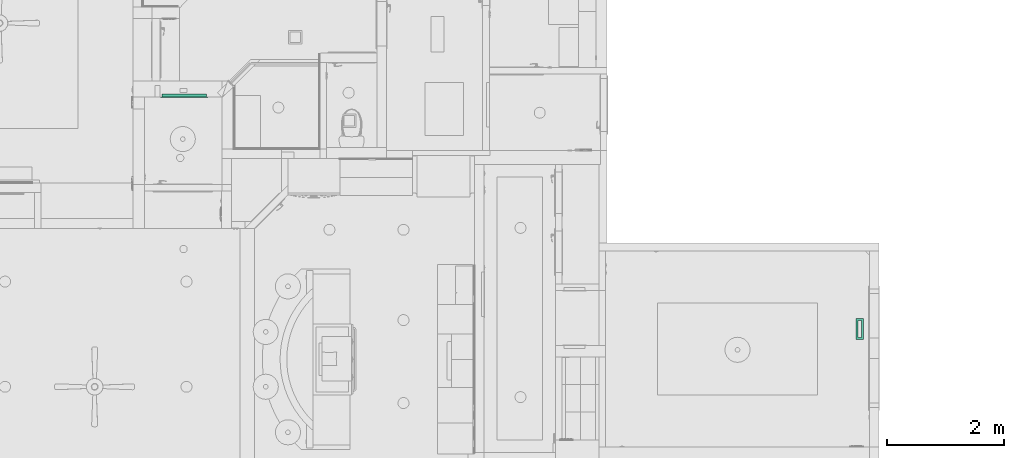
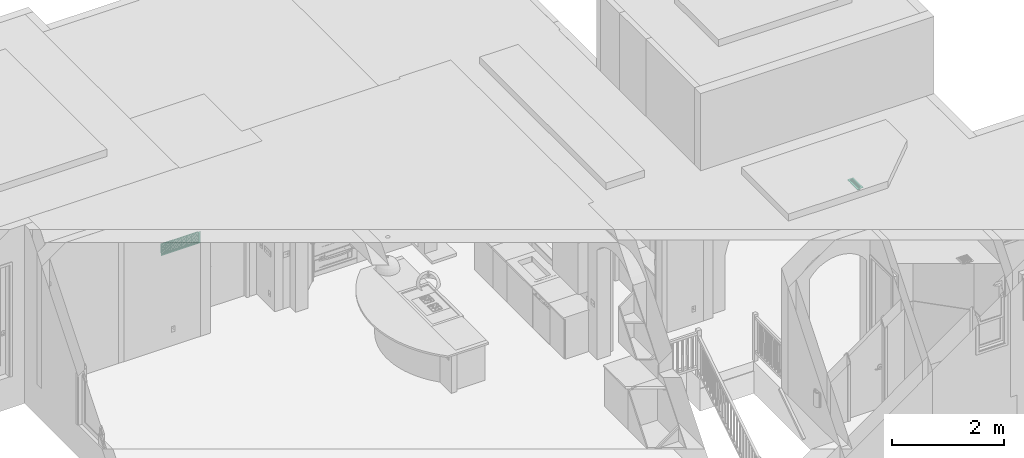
# One storey, part 44 of 103: 2 distribution flow elements.
"""IFC2X3 building model written with IfcOpenShell, lengths in inches."""

import ifcopenshell
import ifcopenshell.guid

model = None  # the IFC model being written
_history = None  # IfcOwnerHistory: only IFC2X3 demands one
_inside = {}  # id of a spatial element -> (the spatial element, [elements in it])
_under = {}  # id of a project, library or spatial element -> (it, [spatial elements below it])
_declared = {}  # id of a project -> (the project, [libraries it declares])
_typed = {}  # id of a type object -> (the type object, [elements of that type])
_made_of = {}  # id of a material, layer set ... -> (it, [elements and type objects made of it])


def new_model(schema):
    """Start an empty IFC model of exactly this schema.

    Asked for "IFC4X3", IfcOpenShell would pick the latest addendum, in which some entities
    have other attributes; the version numbers below select the first issue.
    IFC2X3 requires an IfcOwnerHistory on every rooted entity: one is made here for all.
    """
    global model, _history
    if schema == "IFC4X3":
        model = ifcopenshell.file(schema_version=(4, 3, 0, 0))
    else:
        model = ifcopenshell.file(schema=schema)
    _inside.clear()
    _under.clear()
    _declared.clear()
    _typed.clear()
    _made_of.clear()
    _history = None
    if model.schema == "IFC2X3":
        org = make("IfcOrganization", Name="unknown")
        user = make(
            "IfcPersonAndOrganization",
            ThePerson=make("IfcPerson", FamilyName="unknown"),
            TheOrganization=org,
        )
        app = make(
            "IfcApplication",
            ApplicationDeveloper=org,
            Version="unknown",
            ApplicationFullName="unknown",
            ApplicationIdentifier="unknown",
        )
        _history = make(
            "IfcOwnerHistory",
            OwningUser=user,
            OwningApplication=app,
            ChangeAction="ADDED",
            CreationDate=0,
        )
    return model


def make(cls, **values):
    """One entity of the class cls with the attributes given. An attribute that is None is left unset."""
    return model.create_entity(
        cls, **{name: value for name, value in values.items() if value is not None}
    )


def entity(cls, *values):
    """Any entity or typed value of the class cls, its attributes in the order of the schema. None: left unset."""
    e = model.create_entity(cls)
    for i, value in enumerate(values):
        if value is not None:
            e[i] = value
    return e


def rooted(cls, **values):
    """An entity with a GlobalId (a new one), such as an element, a storey or a relation."""
    return make(cls, GlobalId=ifcopenshell.guid.new(), OwnerHistory=_history, **values)


def si_unit(unit_type, name, prefix=None):
    """IfcSIUnit, for example si_unit("LENGTHUNIT", "METRE", prefix="MILLI")."""
    return make("IfcSIUnit", UnitType=unit_type, Prefix=prefix, Name=name)


def converted_unit(unit_type, name, factor, base, dimensions=None, offset=None):
    """IfcConversionBasedUnit, such as the inch: factor (a typed value) times the base unit."""
    return make(
        "IfcConversionBasedUnit"
        if offset is None
        else "IfcConversionBasedUnitWithOffset",
        ConversionOffset=offset,
        Dimensions=None
        if dimensions is None
        else entity("IfcDimensionalExponents", *dimensions),
        UnitType=unit_type,
        Name=name,
        ConversionFactor=make(
            "IfcMeasureWithUnit", ValueComponent=factor, UnitComponent=base
        ),
    )


def derived_unit(unit_type, elements):
    """IfcDerivedUnit: a product of units, each with its exponent."""
    return make(
        "IfcDerivedUnit",
        Elements=[
            make("IfcDerivedUnitElement", Unit=unit, Exponent=power)
            for unit, power in elements
        ],
        UnitType=unit_type,
    )


def money_unit(currency):
    """IfcMonetaryUnit."""
    return make("IfcMonetaryUnit", Currency=currency)


def assignment(units):
    """IfcUnitAssignment: the units of a project."""
    return None if units is None else make("IfcUnitAssignment", Units=units)


def point(xyz):
    """IfcCartesianPoint."""
    return None if xyz is None else make("IfcCartesianPoint", Coordinates=xyz)


def direction(xyz):
    """IfcDirection."""
    return None if xyz is None else make("IfcDirection", DirectionRatios=xyz)


def frame(location, z_axis=None, x_axis=None):
    """IfcAxis2Placement3D, a coordinate frame: its origin and axes. An axis left out is left unset."""
    return make(
        "IfcAxis2Placement3D",
        Location=point(location),
        Axis=direction(z_axis),
        RefDirection=direction(x_axis),
    )


def origin_with_axes():
    """The frame at (0, 0, 0) with the z axis (0, 0, 1) and the x axis (1, 0, 0) written out."""
    return frame((0.0, 0.0, 0.0), z_axis=(0.0, 0.0, 1.0), x_axis=(1.0, 0.0, 0.0))


def place(relative_to, where):
    """IfcLocalPlacement: puts the frame where relative to a parent placement (None: the world)."""
    return make(
        "IfcLocalPlacement", PlacementRelTo=relative_to, RelativePlacement=where
    )


def context(
    kind, dimensions, precision=None, world=None, true_north=None, identifier=None
):
    """IfcGeometricRepresentationContext, for example the 3D "Model" context."""
    return make(
        "IfcGeometricRepresentationContext",
        ContextIdentifier=identifier,
        ContextType=kind,
        CoordinateSpaceDimension=dimensions,
        Precision=precision,
        WorldCoordinateSystem=world,
        TrueNorth=true_north,
    )


def subcontext(parent, identifier, kind, view, scale=None):
    """IfcGeometricRepresentationSubContext, for example "Body" below "Model"."""
    return make(
        "IfcGeometricRepresentationSubContext",
        ContextIdentifier=identifier,
        ContextType=kind,
        ParentContext=parent,
        TargetScale=scale,
        TargetView=view,
    )


def project(units=None, contexts=None):
    """IfcProject with its units and contexts."""
    return rooted(
        "IfcProject",
        Name="project",
        RepresentationContexts=contexts,
        UnitsInContext=assignment(units),
    )


def spatial(cls, under=None, at=None, **own):
    """A site, building, storey or space (cls), placed at a placement, below another one or the project."""
    s = rooted(cls, ObjectPlacement=at, **own)
    if under is not None:
        _under.setdefault(under.id(), (under, []))[1].append(s)
    return s


def faces_of(points, faces, orient=None, outer=None):
    """IfcFace entities. A face is a list of loops; a loop is a list of indices into points, from 0.

    orient and outer hold one flag for each loop. By default every Orientation is true, the
    first loop of a face is its IfcFaceOuterBound and the others are IfcFaceBound.
    """
    made = []
    for i, loops in enumerate(faces):
        bounds = []
        for j, loop in enumerate(loops):
            is_outer = j == 0 if outer is None else outer[i][j]
            bounds.append(
                make(
                    "IfcFaceOuterBound" if is_outer else "IfcFaceBound",
                    Bound=make("IfcPolyLoop", Polygon=[points[k] for k in loop]),
                    Orientation=True if orient is None else orient[i][j],
                )
            )
        made.append(make("IfcFace", Bounds=bounds))
    return made


def open_shell(faces, orient=None, outer=None):
    """The faces of one IfcOpenShell. surface_model builds it on its shared points."""
    return ("IfcOpenShell", faces, orient, outer)


def faceted_brep(points, faces, orient=None, outer=None, voids=None):
    """IfcFacetedBrep: a solid bounded by flat faces; with voids (closed shells), ...WithVoids."""
    shared = [point(p) for p in points]
    hull = make("IfcClosedShell", CfsFaces=faces_of(shared, faces, orient, outer))
    if voids is None:
        return make("IfcFacetedBrep", Outer=hull)
    return make(
        "IfcFacetedBrepWithVoids",
        Outer=hull,
        Voids=[
            make(cls, CfsFaces=faces_of(shared, fs, o, b)) for cls, fs, o, b in voids
        ],
    )


def surface_model(cls, points, shells):
    """IfcFaceBasedSurfaceModel or IfcShellBasedSurfaceModel (cls): surfaces that need not close."""
    shared = [point(p) for p in points]
    made = [make(c, CfsFaces=faces_of(shared, fs, o, b)) for c, fs, o, b in shells]
    if cls == "IfcFaceBasedSurfaceModel":
        return make(cls, FbsmFaces=made)
    return make(cls, SbsmBoundary=made)


def shape(context_of_items, identifier, shape_type, items):
    """IfcShapeRepresentation: the items that make up one representation, for example the "Body"."""
    return make(
        "IfcShapeRepresentation",
        ContextOfItems=context_of_items,
        RepresentationIdentifier=identifier,
        RepresentationType=shape_type,
        Items=items,
    )


def made_of(thing, what):
    """Note that an element or type object is made of a material, layer set ...; save() writes the relation."""
    if what is not None:
        _made_of.setdefault(what.id(), (what, []))[1].append(thing)
    return thing


def type_object(cls, material=None, **own):
    """A type object (cls), such as IfcWallType, which elements share."""
    return made_of(rooted(cls, **own), material)


def element(
    cls,
    number,
    at=None,
    inside=None,
    cuts=None,
    type_object=None,
    material=None,
    context=None,
    identifier="Body",
    shape_type=None,
    held_by="IfcProductDefinitionShape",
    body=None,
    shapes=None,
    **own,
):
    """One element of the class cls, such as IfcWall. Its Tag is "e" and its number.

    at: its placement. inside: the storey or other place that contains it. cuts: it is an
    opening in that element (IfcRelVoidsElement). A single representation is given by context,
    identifier, shape_type and body (its items); several are given by shapes. held_by: the class
    of the entity that holds the representations. save() writes the other relations.
    """
    e = rooted(cls, Tag="e%d" % number, ObjectPlacement=at, **own)
    if body is not None:
        shapes = [shape(context, identifier, shape_type, body)]
    if shapes is not None:
        e.Representation = make(held_by, Representations=shapes)
    if inside is not None:
        _inside.setdefault(inside.id(), (inside, []))[1].append(e)
    if cuts is not None:
        rooted(
            "IfcRelVoidsElement", RelatingBuildingElement=cuts, RelatedOpeningElement=e
        )
    if type_object is not None:
        _typed.setdefault(type_object.id(), (type_object, []))[1].append(e)
    return made_of(e, material)


def aggregate(whole, parts):
    """IfcRelAggregates: a whole, such as a stair, and the parts it consists of."""
    return rooted("IfcRelAggregates", RelatingObject=whole, RelatedObjects=parts)


def save(model, path):
    """Write the relations noted so far, then the file.

    IfcRelAggregates (storeys below a building ...), IfcRelContainedInSpatialStructure (elements
    in a storey), IfcRelDefinesByType, IfcRelAssociatesMaterial and IfcRelDeclares: one each for
    every whole, place, type object, material and project.
    """
    for whole, parts in _under.values():
        aggregate(whole, parts)
    for where, things in _inside.values():
        rooted(
            "IfcRelContainedInSpatialStructure",
            RelatedElements=things,
            RelatingStructure=where,
        )
    for kind, things in _typed.values():
        rooted("IfcRelDefinesByType", RelatedObjects=things, RelatingType=kind)
    for what, things in _made_of.values():
        rooted("IfcRelAssociatesMaterial", RelatedObjects=things, RelatingMaterial=what)
    for by, libraries in _declared.values():
        rooted("IfcRelDeclares", RelatingContext=by, RelatedDefinitions=libraries)
    model.write(path)


model = new_model("IFC2X3")

# Units and contexts
model_context = context("Model", 3, precision=0.00039370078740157, world=origin_with_axes(), true_north=direction((0.0, 1.0)))
plan_context = context("Plan", 3, precision=0.00039370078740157, world=origin_with_axes(), true_north=direction((0.0, 1.0)))
body_context = subcontext(model_context, "Body", "Model", "MODEL_VIEW")
ifc_project = project(units=[converted_unit("LENGTHUNIT", "INCH", entity("IfcPositiveLengthMeasure", 0.0254), si_unit("LENGTHUNIT", "METRE"), dimensions=[1, 0, 0, 0, 0, 0, 0]), converted_unit("AREAUNIT", "SQUARE_FOOT", entity("IfcPositiveLengthMeasure", 0.09290304), si_unit("AREAUNIT", "SQUARE_METRE"), dimensions=[2, 0, 0, 0, 0, 0, 0]), si_unit("PLANEANGLEUNIT", "RADIAN"), si_unit("SOLIDANGLEUNIT", "STERADIAN"), money_unit("USD"), converted_unit("TIMEUNIT", "Year", entity("IfcTimeMeasure", 31557600.0), si_unit("TIMEUNIT", "SECOND"), dimensions=[0, 0, 1, 0, 0, 0, 0]), si_unit("MASSUNIT", "GRAM", prefix="KILO"), si_unit("THERMODYNAMICTEMPERATUREUNIT", "DEGREE_CELSIUS"), si_unit("LUMINOUSINTENSITYUNIT", "LUMEN"), si_unit("ENERGYUNIT", "JOULE", prefix="MEGA"), derived_unit("SPECIFICHEATCAPACITYUNIT", [(si_unit("ENERGYUNIT", "JOULE"), 1), (si_unit("MASSUNIT", "GRAM", prefix="KILO"), -1), (si_unit("THERMODYNAMICTEMPERATUREUNIT", "KELVIN"), -1)])], contexts=[model_context, plan_context])

# Site, building, storey
site_placement = place(None, origin_with_axes())
site = spatial("IfcSite", under=ifc_project, at=site_placement, Name="Site", CompositionType="ELEMENT")
building_placement = place(site_placement, origin_with_axes())
building = spatial("IfcBuilding", under=site, at=building_placement, Name="Building", CompositionType="ELEMENT")
storey_placement = place(building_placement, frame((0.0, 0.0, 127.9999999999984), z_axis=(0.0, 0.0, 1.0), x_axis=(1.0, 0.0, 0.0)))
storey = spatial("IfcBuildingStorey", under=building, at=storey_placement, Name="Second Floor", CompositionType="ELEMENT", Elevation=128.0)

# Distribution flow elements
valve_type_1 = type_object("IfcValveType", Name="Sidewall Grille", PredefinedType="NOTDEFINED")
distribution_flow_element_1_placement = place(storey_placement, frame((-40.99987696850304, 436.9999997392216, 13.49999999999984), z_axis=(0.0, 0.0, 1.0), x_axis=(1.0, 0.0, 0.0)))
element("IfcDistributionFlowElement", 1, at=distribution_flow_element_1_placement, inside=storey, type_object=valve_type_1, Name="FU - 004", context=body_context, shape_type="SurfaceModel", body=[
    faceted_brep([(15.99987696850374, -0.1968503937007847, -4.999876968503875), (-15.99987696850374, -0.1968503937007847, -4.999876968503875), (-15.99987696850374, 0.0, -4.999876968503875), (15.99987696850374, 0.0, -4.999876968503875), (15.99987696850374, -0.1968503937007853, 4.999876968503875), (-15.99987696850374, -0.1968503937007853, 4.999876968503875), (15.01562499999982, -0.1968503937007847, -4.015624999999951), (-15.01562499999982, -0.1968503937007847, -4.015624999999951), (-15.01562499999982, -0.1968503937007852, 4.015624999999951), (15.01562499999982, -0.1968503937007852, 4.015624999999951), (-15.99987696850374, 0.0, 4.999876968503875), (15.99987696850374, 0.0, 4.999876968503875), (15.01562499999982, 0.0, -4.015624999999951), (15.01562499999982, 0.0, 4.015624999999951), (-15.01562499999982, 0.0, 4.015624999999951), (-15.01562499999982, 0.0, -4.015624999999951)], [[[0, 1, 2, 3]], [[0, 4, 5, 1], [6, 7, 8, 9]], [[1, 5, 10, 2]], [[3, 2, 10, 11], [12, 13, 14, 15]], [[4, 0, 3, 11]], [[5, 4, 11, 10]], [[7, 6, 12, 15]], [[8, 7, 15, 14]], [[9, 8, 14, 13]], [[6, 9, 13, 12]]]),
    surface_model("IfcShellBasedSurfaceModel", [(-14.97625492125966, -0.1968503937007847, -3.999999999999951), (14.97625492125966, -0.1968503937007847, -3.999999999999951), (14.97625492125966, 0.7874015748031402, -3.999999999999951), (-14.97625492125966, 0.7874015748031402, -3.999999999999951)], [open_shell([[[0, 1, 2, 3]]])]),
    surface_model("IfcShellBasedSurfaceModel", [(-14.97625492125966, -0.1968503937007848, -2.999999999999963), (14.97625492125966, -0.1968503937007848, -2.999999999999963), (14.97625492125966, 0.7874015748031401, -2.999999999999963), (-14.97625492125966, 0.7874015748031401, -2.999999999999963)], [open_shell([[[0, 1, 2, 3]]])]),
    surface_model("IfcShellBasedSurfaceModel", [(-14.97625492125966, -0.1968503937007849, -1.999999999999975), (14.97625492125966, -0.1968503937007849, -1.999999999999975), (14.97625492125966, 0.7874015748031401, -1.999999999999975), (-14.97625492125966, 0.7874015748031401, -1.999999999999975)], [open_shell([[[0, 1, 2, 3]]])]),
    surface_model("IfcShellBasedSurfaceModel", [(-14.97625492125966, -0.1968503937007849, -0.999999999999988), (14.97625492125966, -0.1968503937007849, -0.999999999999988), (14.97625492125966, 0.7874015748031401, -0.999999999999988), (-14.97625492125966, 0.7874015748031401, -0.999999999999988)], [open_shell([[[0, 1, 2, 3]]])]),
    surface_model("IfcShellBasedSurfaceModel", [(-14.97625492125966, -0.196850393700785, 0.0), (14.97625492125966, -0.196850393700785, 0.0), (14.97625492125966, 0.78740157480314, 0.0), (-14.97625492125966, 0.78740157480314, 0.0)], [open_shell([[[0, 1, 2, 3]]])]),
    surface_model("IfcShellBasedSurfaceModel", [(-14.97625492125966, -0.1968503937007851, 0.999999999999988), (14.97625492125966, -0.1968503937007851, 0.999999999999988), (14.97625492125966, 0.78740157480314, 0.999999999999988), (-14.97625492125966, 0.78740157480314, 0.999999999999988)], [open_shell([[[0, 1, 2, 3]]])]),
    surface_model("IfcShellBasedSurfaceModel", [(-14.97625492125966, -0.1968503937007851, 1.999999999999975), (14.97625492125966, -0.1968503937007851, 1.999999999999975), (14.97625492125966, 0.7874015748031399, 1.999999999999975), (-14.97625492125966, 0.7874015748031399, 1.999999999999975)], [open_shell([[[0, 1, 2, 3]]])]),
    surface_model("IfcShellBasedSurfaceModel", [(-14.97625492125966, -0.1968503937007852, 2.999999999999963), (14.97625492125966, -0.1968503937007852, 2.999999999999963), (14.97625492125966, 0.7874015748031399, 2.999999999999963), (-14.97625492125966, 0.7874015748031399, 2.999999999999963)], [open_shell([[[0, 1, 2, 3]]])]),
    surface_model("IfcShellBasedSurfaceModel", [(-14.97625492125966, -0.1968503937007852, 3.999999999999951), (14.97625492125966, -0.1968503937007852, 3.999999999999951), (14.97625492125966, 0.7874015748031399, 3.999999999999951), (-14.97625492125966, 0.7874015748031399, 3.999999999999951)], [open_shell([[[0, 1, 2, 3]]])]),
    surface_model("IfcShellBasedSurfaceModel", [(14.99999999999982, -0.1968503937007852, 3.976254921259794), (14.99999999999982, -0.1968503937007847, -3.976254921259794), (14.99999999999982, 0.7874015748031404, -3.976254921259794), (14.99999999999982, 0.7874015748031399, 3.976254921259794)], [open_shell([[[0, 1, 2, 3]]])]),
    surface_model("IfcShellBasedSurfaceModel", [(13.99999999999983, -0.1968503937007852, 3.976254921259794), (13.99999999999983, -0.1968503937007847, -3.976254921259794), (13.99999999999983, 0.7874015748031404, -3.976254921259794), (13.99999999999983, 0.7874015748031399, 3.976254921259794)], [open_shell([[[0, 1, 2, 3]]])]),
    surface_model("IfcShellBasedSurfaceModel", [(12.99999999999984, -0.1968503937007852, 3.976254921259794), (12.99999999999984, -0.1968503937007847, -3.976254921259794), (12.99999999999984, 0.7874015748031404, -3.976254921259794), (12.99999999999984, 0.7874015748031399, 3.976254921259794)], [open_shell([[[0, 1, 2, 3]]])]),
    surface_model("IfcShellBasedSurfaceModel", [(11.99999999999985, -0.1968503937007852, 3.976254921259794), (11.99999999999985, -0.1968503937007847, -3.976254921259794), (11.99999999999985, 0.7874015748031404, -3.976254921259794), (11.99999999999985, 0.7874015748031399, 3.976254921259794)], [open_shell([[[0, 1, 2, 3]]])]),
    surface_model("IfcShellBasedSurfaceModel", [(10.99999999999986, -0.1968503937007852, 3.976254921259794), (10.99999999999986, -0.1968503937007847, -3.976254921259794), (10.99999999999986, 0.7874015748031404, -3.976254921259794), (10.99999999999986, 0.7874015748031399, 3.976254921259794)], [open_shell([[[0, 1, 2, 3]]])]),
    surface_model("IfcShellBasedSurfaceModel", [(9.999999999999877, -0.1968503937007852, 3.976254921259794), (9.999999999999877, -0.1968503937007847, -3.976254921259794), (9.999999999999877, 0.7874015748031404, -3.976254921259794), (9.999999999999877, 0.7874015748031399, 3.976254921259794)], [open_shell([[[0, 1, 2, 3]]])]),
    surface_model("IfcShellBasedSurfaceModel", [(8.999999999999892, -0.1968503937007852, 3.976254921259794), (8.999999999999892, -0.1968503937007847, -3.976254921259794), (8.999999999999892, 0.7874015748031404, -3.976254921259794), (8.999999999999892, 0.7874015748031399, 3.976254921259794)], [open_shell([[[0, 1, 2, 3]]])]),
    surface_model("IfcShellBasedSurfaceModel", [(7.999999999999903, -0.1968503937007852, 3.976254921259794), (7.999999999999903, -0.1968503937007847, -3.976254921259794), (7.999999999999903, 0.7874015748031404, -3.976254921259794), (7.999999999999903, 0.7874015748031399, 3.976254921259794)], [open_shell([[[0, 1, 2, 3]]])]),
    surface_model("IfcShellBasedSurfaceModel", [(6.999999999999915, -0.1968503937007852, 3.976254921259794), (6.999999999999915, -0.1968503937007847, -3.976254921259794), (6.999999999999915, 0.7874015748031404, -3.976254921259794), (6.999999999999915, 0.7874015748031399, 3.976254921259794)], [open_shell([[[0, 1, 2, 3]]])]),
    surface_model("IfcShellBasedSurfaceModel", [(5.999999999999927, -0.1968503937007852, 3.976254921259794), (5.999999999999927, -0.1968503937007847, -3.976254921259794), (5.999999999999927, 0.7874015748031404, -3.976254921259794), (5.999999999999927, 0.7874015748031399, 3.976254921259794)], [open_shell([[[0, 1, 2, 3]]])]),
    surface_model("IfcShellBasedSurfaceModel", [(4.999999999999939, -0.1968503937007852, 3.976254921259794), (4.999999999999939, -0.1968503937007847, -3.976254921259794), (4.999999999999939, 0.7874015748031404, -3.976254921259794), (4.999999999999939, 0.7874015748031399, 3.976254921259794)], [open_shell([[[0, 1, 2, 3]]])]),
    surface_model("IfcShellBasedSurfaceModel", [(3.999999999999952, -0.1968503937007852, 3.976254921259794), (3.999999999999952, -0.1968503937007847, -3.976254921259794), (3.999999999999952, 0.7874015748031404, -3.976254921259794), (3.999999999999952, 0.7874015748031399, 3.976254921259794)], [open_shell([[[0, 1, 2, 3]]])]),
    surface_model("IfcShellBasedSurfaceModel", [(2.999999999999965, -0.1968503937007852, 3.976254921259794), (2.999999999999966, -0.1968503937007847, -3.976254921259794), (2.999999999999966, 0.7874015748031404, -3.976254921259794), (2.999999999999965, 0.7874015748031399, 3.976254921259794)], [open_shell([[[0, 1, 2, 3]]])]),
    surface_model("IfcShellBasedSurfaceModel", [(1.999999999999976, -0.1968503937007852, 3.976254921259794), (1.999999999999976, -0.1968503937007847, -3.976254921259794), (1.999999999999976, 0.7874015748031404, -3.976254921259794), (1.999999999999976, 0.7874015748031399, 3.976254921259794)], [open_shell([[[0, 1, 2, 3]]])]),
    surface_model("IfcShellBasedSurfaceModel", [(0.9999999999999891, -0.1968503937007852, 3.976254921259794), (0.9999999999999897, -0.1968503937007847, -3.976254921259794), (0.9999999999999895, 0.7874015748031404, -3.976254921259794), (0.9999999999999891, 0.7874015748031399, 3.976254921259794)], [open_shell([[[0, 1, 2, 3]]])]),
    surface_model("IfcShellBasedSurfaceModel", [(0.0, -0.1968503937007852, 3.976254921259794), (0.0, -0.1968503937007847, -3.976254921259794), (0.0, 0.7874015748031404, -3.976254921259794), (0.0, 0.7874015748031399, 3.976254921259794)], [open_shell([[[0, 1, 2, 3]]])]),
    surface_model("IfcShellBasedSurfaceModel", [(-0.9999999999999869, -0.1968503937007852, 3.976254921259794), (-0.9999999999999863, -0.1968503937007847, -3.976254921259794), (-0.9999999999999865, 0.7874015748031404, -3.976254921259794), (-0.9999999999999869, 0.7874015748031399, 3.976254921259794)], [open_shell([[[0, 1, 2, 3]]])]),
    surface_model("IfcShellBasedSurfaceModel", [(-1.999999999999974, -0.1968503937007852, 3.976254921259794), (-1.999999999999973, -0.1968503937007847, -3.976254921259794), (-1.999999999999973, 0.7874015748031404, -3.976254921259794), (-1.999999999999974, 0.7874015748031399, 3.976254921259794)], [open_shell([[[0, 1, 2, 3]]])]),
    surface_model("IfcShellBasedSurfaceModel", [(-2.999999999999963, -0.1968503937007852, 3.976254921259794), (-2.999999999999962, -0.1968503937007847, -3.976254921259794), (-2.999999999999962, 0.7874015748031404, -3.976254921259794), (-2.999999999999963, 0.7874015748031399, 3.976254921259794)], [open_shell([[[0, 1, 2, 3]]])]),
    surface_model("IfcShellBasedSurfaceModel", [(-3.99999999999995, -0.1968503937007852, 3.976254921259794), (-3.999999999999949, -0.1968503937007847, -3.976254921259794), (-3.999999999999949, 0.7874015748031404, -3.976254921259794), (-3.99999999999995, 0.7874015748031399, 3.976254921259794)], [open_shell([[[0, 1, 2, 3]]])]),
    surface_model("IfcShellBasedSurfaceModel", [(-4.999999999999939, -0.1968503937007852, 3.976254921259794), (-4.999999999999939, -0.1968503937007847, -3.976254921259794), (-4.999999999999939, 0.7874015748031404, -3.976254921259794), (-4.999999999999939, 0.7874015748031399, 3.976254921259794)], [open_shell([[[0, 1, 2, 3]]])]),
    surface_model("IfcShellBasedSurfaceModel", [(-5.999999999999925, -0.1968503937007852, 3.976254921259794), (-5.999999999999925, -0.1968503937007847, -3.976254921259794), (-5.999999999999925, 0.7874015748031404, -3.976254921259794), (-5.999999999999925, 0.7874015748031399, 3.976254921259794)], [open_shell([[[0, 1, 2, 3]]])]),
    surface_model("IfcShellBasedSurfaceModel", [(-6.999999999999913, -0.1968503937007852, 3.976254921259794), (-6.999999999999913, -0.1968503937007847, -3.976254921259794), (-6.999999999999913, 0.7874015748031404, -3.976254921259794), (-6.999999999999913, 0.7874015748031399, 3.976254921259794)], [open_shell([[[0, 1, 2, 3]]])]),
    surface_model("IfcShellBasedSurfaceModel", [(-7.9999999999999, -0.1968503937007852, 3.976254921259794), (-7.9999999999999, -0.1968503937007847, -3.976254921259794), (-7.9999999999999, 0.7874015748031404, -3.976254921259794), (-7.9999999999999, 0.7874015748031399, 3.976254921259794)], [open_shell([[[0, 1, 2, 3]]])]),
    surface_model("IfcShellBasedSurfaceModel", [(-8.999999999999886, -0.1968503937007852, 3.976254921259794), (-8.999999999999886, -0.1968503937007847, -3.976254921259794), (-8.999999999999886, 0.7874015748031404, -3.976254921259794), (-8.999999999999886, 0.7874015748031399, 3.976254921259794)], [open_shell([[[0, 1, 2, 3]]])]),
    surface_model("IfcShellBasedSurfaceModel", [(-9.999999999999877, -0.1968503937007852, 3.976254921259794), (-9.999999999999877, -0.1968503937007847, -3.976254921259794), (-9.999999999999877, 0.7874015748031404, -3.976254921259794), (-9.999999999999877, 0.7874015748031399, 3.976254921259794)], [open_shell([[[0, 1, 2, 3]]])]),
    surface_model("IfcShellBasedSurfaceModel", [(-10.99999999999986, -0.1968503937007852, 3.976254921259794), (-10.99999999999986, -0.1968503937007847, -3.976254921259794), (-10.99999999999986, 0.7874015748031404, -3.976254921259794), (-10.99999999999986, 0.7874015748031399, 3.976254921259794)], [open_shell([[[0, 1, 2, 3]]])]),
    surface_model("IfcShellBasedSurfaceModel", [(-11.99999999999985, -0.1968503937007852, 3.976254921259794), (-11.99999999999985, -0.1968503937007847, -3.976254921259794), (-11.99999999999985, 0.7874015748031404, -3.976254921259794), (-11.99999999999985, 0.7874015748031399, 3.976254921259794)], [open_shell([[[0, 1, 2, 3]]])]),
    surface_model("IfcShellBasedSurfaceModel", [(-12.99999999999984, -0.1968503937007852, 3.976254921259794), (-12.99999999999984, -0.1968503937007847, -3.976254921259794), (-12.99999999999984, 0.7874015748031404, -3.976254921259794), (-12.99999999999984, 0.7874015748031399, 3.976254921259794)], [open_shell([[[0, 1, 2, 3]]])]),
    surface_model("IfcShellBasedSurfaceModel", [(-13.99999999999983, -0.1968503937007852, 3.976254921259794), (-13.99999999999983, -0.1968503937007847, -3.976254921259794), (-13.99999999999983, 0.7874015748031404, -3.976254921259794), (-13.99999999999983, 0.7874015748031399, 3.976254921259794)], [open_shell([[[0, 1, 2, 3]]])]),
    surface_model("IfcShellBasedSurfaceModel", [(-14.99999999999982, -0.1968503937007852, 3.976254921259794), (-14.99999999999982, -0.1968503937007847, -3.976254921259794), (-14.99999999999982, 0.7874015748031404, -3.976254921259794), (-14.99999999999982, 0.7874015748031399, 3.976254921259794)], [open_shell([[[0, 1, 2, 3]]])]),
    surface_model("IfcShellBasedSurfaceModel", [(-15.01562499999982, 0.0, -4.015624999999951), (-15.01562499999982, 0.0, 4.015624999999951), (-15.01562499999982, 1.999999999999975, 4.015624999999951), (-15.01562499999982, 1.999999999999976, -4.015624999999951), (15.01562499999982, 0.0, 4.015624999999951), (15.01562499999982, 1.999999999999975, 4.015624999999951), (15.01562499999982, 0.0, -4.015624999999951), (15.01562499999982, 1.999999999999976, -4.015624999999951)], [open_shell([[[0, 1, 2, 3]], [[1, 4, 5, 2]], [[6, 0, 3, 7]], [[4, 6, 7, 5]]])]),
])
valve_type_2 = type_object("IfcValveType", Name="Rect Floor Register", PredefinedType="NOTDEFINED")
distribution_flow_element_2_placement = place(storey_placement, frame((415.0021553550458, 280.5035679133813, 0.0), z_axis=(0.0, 0.0, 1.0), x_axis=(0.0, -1.0, 0.0)))
element("IfcDistributionFlowElement", 2, at=distribution_flow_element_2_placement, inside=storey, type_object=valve_type_2, Name="FU - 027", context=body_context, shape_type="SurfaceModel", body=[
    faceted_brep([(7.002952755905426, 2.502952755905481, 0.0), (-7.002952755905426, 2.502952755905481, 0.0), (-7.002952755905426, 2.502952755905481, 0.196850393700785), (7.002952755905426, 2.502952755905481, 0.196850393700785), (7.002952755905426, -2.502952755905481, 0.0), (-7.002952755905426, -2.502952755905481, 0.0), (5.624999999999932, 1.124999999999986, 0.0), (-5.624999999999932, 1.124999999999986, 0.0), (-5.624999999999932, -1.124999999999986, 0.0), (5.624999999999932, -1.124999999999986, 0.0), (-7.002952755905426, -2.502952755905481, 0.196850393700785), (7.002952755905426, -2.502952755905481, 0.196850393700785), (5.624999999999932, 1.124999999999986, 0.196850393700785), (5.624999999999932, -1.124999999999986, 0.196850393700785), (-5.624999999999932, -1.124999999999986, 0.196850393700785), (-5.624999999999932, 1.124999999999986, 0.196850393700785)], [[[0, 1, 2, 3]], [[0, 4, 5, 1], [6, 7, 8, 9]], [[1, 5, 10, 2]], [[3, 2, 10, 11], [12, 13, 14, 15]], [[4, 0, 3, 11]], [[5, 4, 11, 10]], [[7, 6, 12, 15]], [[8, 7, 15, 14]], [[9, 8, 14, 13]], [[6, 9, 13, 12]]]),
    surface_model("IfcShellBasedSurfaceModel", [(-5.585629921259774, 0.984251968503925, -0.78740157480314), (5.585629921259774, 0.984251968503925, -0.78740157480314), (5.585629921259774, 0.984251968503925, 0.196850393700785), (-5.585629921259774, 0.984251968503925, 0.196850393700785)], [open_shell([[[0, 1, 2, 3]]])]),
    surface_model("IfcShellBasedSurfaceModel", [(-5.585629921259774, 0.0, -0.78740157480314), (5.585629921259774, 0.0, -0.78740157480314), (5.585629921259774, 0.0, 0.196850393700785), (-5.585629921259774, 0.0, 0.196850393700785)], [open_shell([[[0, 1, 2, 3]]])]),
    surface_model("IfcShellBasedSurfaceModel", [(-5.585629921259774, -0.984251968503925, -0.78740157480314), (5.585629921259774, -0.984251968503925, -0.78740157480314), (5.585629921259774, -0.984251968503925, 0.196850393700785), (-5.585629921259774, -0.984251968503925, 0.196850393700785)], [open_shell([[[0, 1, 2, 3]]])]),
    surface_model("IfcShellBasedSurfaceModel", [(5.413385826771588, -1.085629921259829, -0.78740157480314), (5.413385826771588, 1.085629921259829, -0.78740157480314), (5.413385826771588, 1.085629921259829, 0.196850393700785), (5.413385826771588, -1.085629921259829, 0.196850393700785)], [open_shell([[[0, 1, 2, 3]]])]),
    surface_model("IfcShellBasedSurfaceModel", [(4.429133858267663, -1.085629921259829, -0.78740157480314), (4.429133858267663, 1.085629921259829, -0.78740157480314), (4.429133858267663, 1.085629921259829, 0.196850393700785), (4.429133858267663, -1.085629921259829, 0.196850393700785)], [open_shell([[[0, 1, 2, 3]]])]),
    surface_model("IfcShellBasedSurfaceModel", [(3.444881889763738, -1.085629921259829, -0.78740157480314), (3.444881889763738, 1.085629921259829, -0.78740157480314), (3.444881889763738, 1.085629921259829, 0.196850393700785), (3.444881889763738, -1.085629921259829, 0.196850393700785)], [open_shell([[[0, 1, 2, 3]]])]),
    surface_model("IfcShellBasedSurfaceModel", [(2.460629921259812, -1.085629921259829, -0.78740157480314), (2.460629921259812, 1.085629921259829, -0.78740157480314), (2.460629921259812, 1.085629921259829, 0.196850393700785), (2.460629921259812, -1.085629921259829, 0.196850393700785)], [open_shell([[[0, 1, 2, 3]]])]),
    surface_model("IfcShellBasedSurfaceModel", [(1.476377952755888, -1.085629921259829, -0.78740157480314), (1.476377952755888, 1.085629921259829, -0.78740157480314), (1.476377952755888, 1.085629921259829, 0.196850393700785), (1.476377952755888, -1.085629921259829, 0.196850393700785)], [open_shell([[[0, 1, 2, 3]]])]),
    surface_model("IfcShellBasedSurfaceModel", [(0.4921259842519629, -1.085629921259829, -0.78740157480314), (0.4921259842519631, 1.085629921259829, -0.78740157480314), (0.492125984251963, 1.085629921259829, 0.196850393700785), (0.4921259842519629, -1.085629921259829, 0.196850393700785)], [open_shell([[[0, 1, 2, 3]]])]),
    surface_model("IfcShellBasedSurfaceModel", [(-0.4921259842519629, -1.085629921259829, -0.78740157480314), (-0.4921259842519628, 1.085629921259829, -0.78740157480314), (-0.4921259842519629, 1.085629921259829, 0.196850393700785), (-0.492125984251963, -1.085629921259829, 0.196850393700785)], [open_shell([[[0, 1, 2, 3]]])]),
    surface_model("IfcShellBasedSurfaceModel", [(-1.476377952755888, -1.085629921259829, -0.78740157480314), (-1.476377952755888, 1.085629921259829, -0.78740157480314), (-1.476377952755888, 1.085629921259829, 0.196850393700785), (-1.476377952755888, -1.085629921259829, 0.196850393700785)], [open_shell([[[0, 1, 2, 3]]])]),
    surface_model("IfcShellBasedSurfaceModel", [(-2.460629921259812, -1.085629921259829, -0.78740157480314), (-2.460629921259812, 1.085629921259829, -0.78740157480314), (-2.460629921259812, 1.085629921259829, 0.196850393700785), (-2.460629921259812, -1.085629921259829, 0.196850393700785)], [open_shell([[[0, 1, 2, 3]]])]),
    surface_model("IfcShellBasedSurfaceModel", [(-3.444881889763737, -1.085629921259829, -0.78740157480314), (-3.444881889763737, 1.085629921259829, -0.78740157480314), (-3.444881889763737, 1.085629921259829, 0.196850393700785), (-3.444881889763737, -1.085629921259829, 0.196850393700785)], [open_shell([[[0, 1, 2, 3]]])]),
    surface_model("IfcShellBasedSurfaceModel", [(-4.429133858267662, -1.085629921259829, -0.78740157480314), (-4.429133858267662, 1.085629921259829, -0.78740157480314), (-4.429133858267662, 1.085629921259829, 0.196850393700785), (-4.429133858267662, -1.085629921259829, 0.196850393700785)], [open_shell([[[0, 1, 2, 3]]])]),
    surface_model("IfcShellBasedSurfaceModel", [(-5.413385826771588, -1.085629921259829, -0.78740157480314), (-5.413385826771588, 1.085629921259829, -0.78740157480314), (-5.413385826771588, 1.085629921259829, 0.196850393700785), (-5.413385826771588, -1.085629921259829, 0.196850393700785)], [open_shell([[[0, 1, 2, 3]]])]),
    surface_model("IfcShellBasedSurfaceModel", [(-5.624999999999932, -1.124999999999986, 0.0), (-5.624999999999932, 1.124999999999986, 0.0), (-5.624999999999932, 1.124999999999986, -1.999999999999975), (-5.624999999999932, -1.124999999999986, -1.999999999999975), (5.624999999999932, 1.124999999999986, 0.0), (5.624999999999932, 1.124999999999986, -1.999999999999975), (5.624999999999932, -1.124999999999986, 0.0), (5.624999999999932, -1.124999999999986, -1.999999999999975)], [open_shell([[[0, 1, 2, 3]], [[1, 4, 5, 2]], [[6, 0, 3, 7]], [[4, 6, 7, 5]]])]),
])

save(model, "model.ifc")
